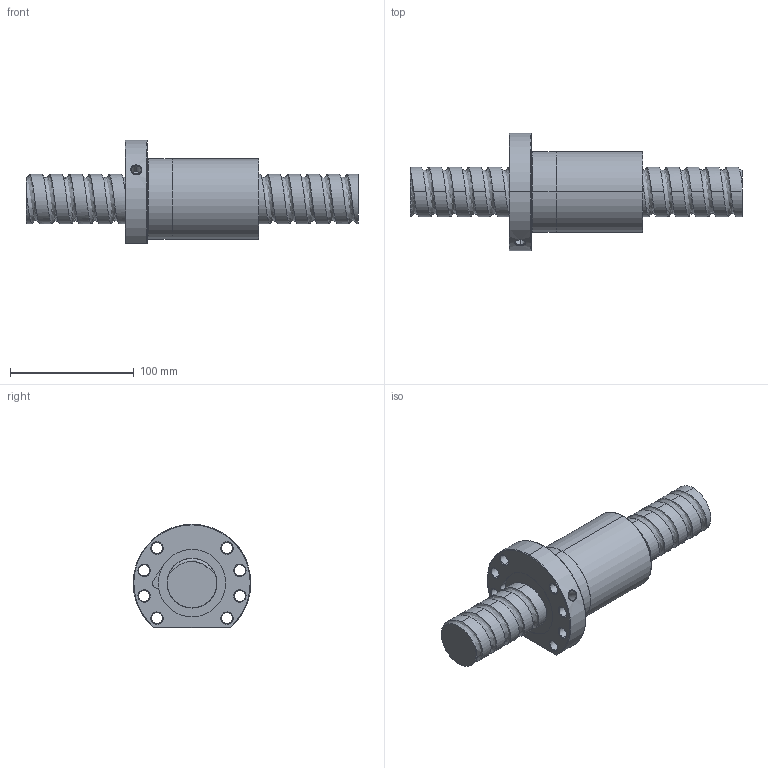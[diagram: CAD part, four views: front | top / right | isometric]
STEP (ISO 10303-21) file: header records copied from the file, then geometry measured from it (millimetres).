
FILE_DESCRIPTION (( 'STEP AP214' ), '1' );
FILE_NAME ('FSDC04016T5-F-B.STEP', '2010-06-25T12:18:33', ( 'XPAUTO' ), ( 'XPAUTO' ), 'SwSTEP 2.0', 'SolidWorks 2007', '' );
FILE_SCHEMA (( 'AUTOMOTIVE_DESIGN' ));
Length unit declared in the file: millimetre
Products named in the file (3): FSDC04016T5-F-B; FSDC04016T5-F-B.sldasm-Part-2_預設; FSDC04016T5-F-B.sldasm-Part-1_預設
Assembly tree (2 placements, depth 2):
  FSDC04016T5-F-B
    FSDC04016T5-F-B.sldasm-Part-2_預設
    FSDC04016T5-F-B.sldasm-Part-1_預設
Bounding box: 268 x 95 x 83.5 mm (x, y, z)
Volume: 582346.3 mm3; surface area: 91654.1 mm2
Topology: 2 solids, 2 shells, 138 faces, 343 edges, 214 vertices
Faces by surface type: cylinder 77, cone 32, plane 19, bspline 5, torus 5
Entity records: 26282 total; most frequent: CARTESIAN_POINT 22980, ORIENTED_EDGE 686, DIRECTION 651, EDGE_CURVE 343, AXIS2_PLACEMENT_3D 265, VERTEX_POINT 214, EDGE_LOOP 163, FACE_OUTER_BOUND 138
